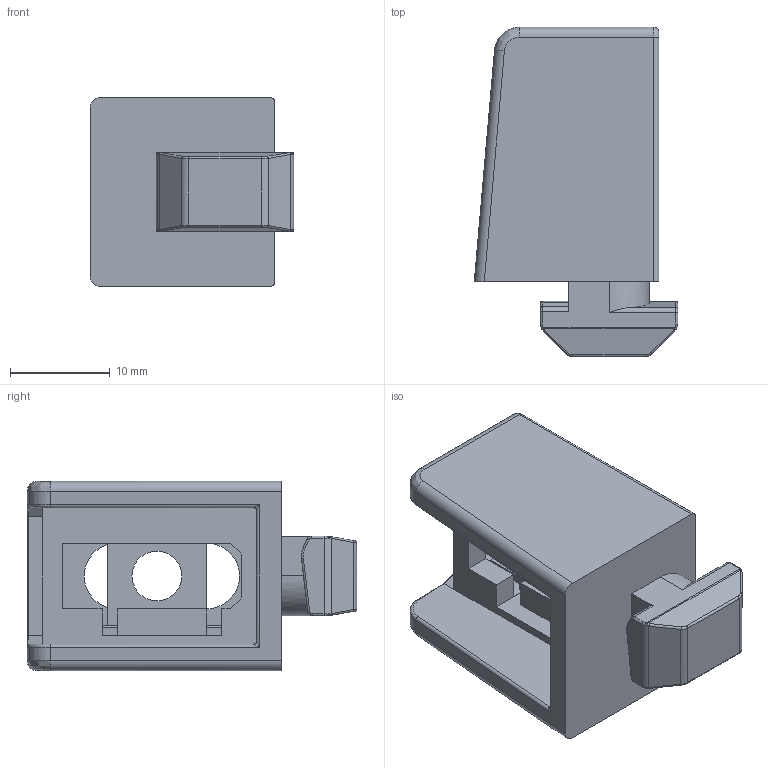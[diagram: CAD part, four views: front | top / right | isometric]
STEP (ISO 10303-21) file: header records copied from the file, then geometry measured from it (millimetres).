
FILE_DESCRIPTION (( 'STEP AP203' ), '1' );
FILE_NAME ('10578_UNI8.10PA.STEP', '2018-04-20T08:06:23', ( '' ), ( '' ), 'SwSTEP 2.0', 'SolidWorks 2017', '' );
FILE_SCHEMA (( 'CONFIG_CONTROL_DESIGN' ));
Length unit declared in the file: millimetre
Products named in the file (3): 10578_UNI8.10PA; 10578Gewindeblock; 094UNIBLOCK18TAB_094030
Assembly tree (2 placements, depth 2):
  10578_UNI8.10PA
    094UNIBLOCK18TAB_094030
    10578Gewindeblock
Bounding box: 20.43 x 33.06 x 19 mm (x, y, z)
Volume: 5308.7 mm3; surface area: 4097.4 mm2
Topology: 2 solids, 2 shells, 157 faces, 387 edges, 235 vertices
Faces by surface type: plane 64, cylinder 58, bspline 34, cone 1
Entity records: 5454 total; most frequent: CARTESIAN_POINT 1664, ORIENTED_EDGE 770, DIRECTION 677, EDGE_CURVE 385, VERTEX_POINT 235, AXIS2_PLACEMENT_3D 228, LINE 221, VECTOR 221
